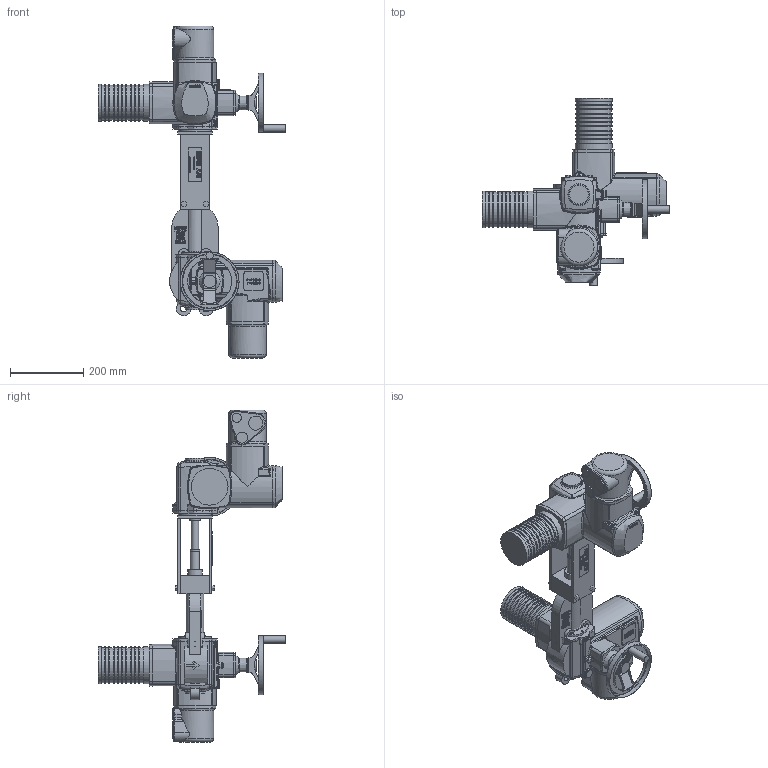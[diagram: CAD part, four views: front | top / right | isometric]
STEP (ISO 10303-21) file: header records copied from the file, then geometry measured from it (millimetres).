
FILE_DESCRIPTION( ( 'Unknown' ), '1' );
FILE_NAME( 'J:/Muud/ROOTSI BPS 3D vidinad/Nugasiibrid/Knife gate valve with electric actuator BPS/STEP formaat/BPS 2010080E knife gate valve DN80.stp', 'Unknown', ( 'Unknown' ), ( 'Unknown' ), 'PSStep 10.1', 'Unknown', ' ' );
FILE_SCHEMA( ( 'AUTOMOTIVE_DESIGN { 1 0 10303 214 1 1 1 1 }' ) );
Length unit declared in the file: millimetre
Products named in the file (3): Assem1; Knife gate valve for electric drive DN80 BPS; AUMA electric actuator sa07.1(sa07.5)-oa0
Bounding box: 511.9 x 511.9 x 904 mm (x, y, z)
Volume: 18888700 mm3; surface area: 1251615.6 mm2
Topology: 4 solids, 4 shells, 2784 faces, 6664 edges, 4164 vertices
Faces by surface type: extrusion 1036, plane 590, cylinder 536, bspline 330, cone 154, torus 92, sphere 46
Full cylindrical faces by diameter (mm): 4.917 x8, 6.647 x8, 13.835 x4, 19 x4, 20 x6, 24 x4, 25 x4, 25.5 x2, 30 x8, 34 x2, 38.3 x2, 40 x2, 51.5 x2, 55 x2, 80 x4, 90 x2, 95 x20, 100 x22, 120 x2, 138 x2, 160 x2
Entity records: 71937 total; most frequent: CARTESIAN_POINT 31502, ORIENTED_EDGE 6334, DIRECTION 4706, EDGE_CURVE 3167, VERTEX_POINT 2055, VECTOR 1888, EDGE_LOOP 1674, B_SPLINE_CURVE_WITH_KNOTS 1618
